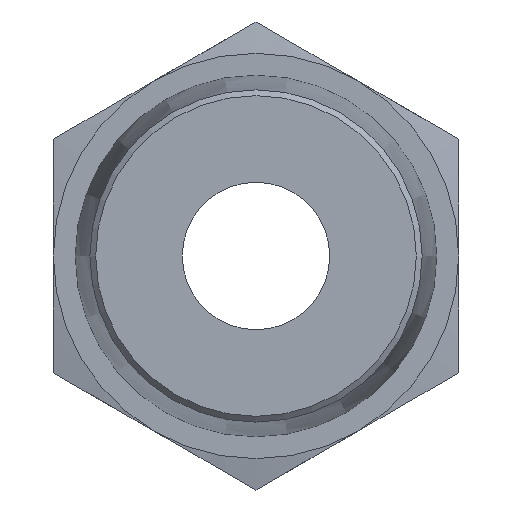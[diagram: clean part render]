
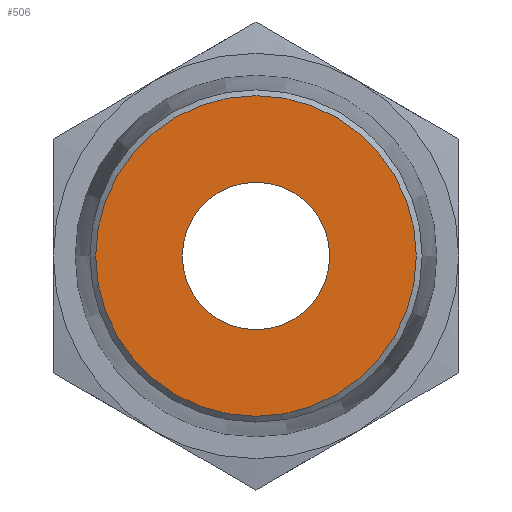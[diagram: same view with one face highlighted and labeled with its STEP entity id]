
A CAD part, front view. The second image highlights one B-rep face of the part: STEP entity #506.
In plain terms, the highlighted planar face has unit normal (0, -1, 0).
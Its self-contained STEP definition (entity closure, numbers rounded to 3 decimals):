
#57=FACE_BOUND('',#124,.T.);
#65=PLANE('',#579);
#84=FACE_OUTER_BOUND('',#123,.T.);
#123=EDGE_LOOP('',(#371));
#124=EDGE_LOOP('',(#372));
#191=CIRCLE('',#560,4.);
#203=CIRCLE('',#578,8.7);
#225=VERTEX_POINT('',#792);
#236=VERTEX_POINT('',#824);
#270=EDGE_CURVE('',#225,#225,#191,.T.);
#286=EDGE_CURVE('',#236,#236,#203,.T.);
#371=ORIENTED_EDGE('',*,*,#286,.F.);
#372=ORIENTED_EDGE('',*,*,#270,.T.);
#506=ADVANCED_FACE('',(#84,#57),#65,.T.);
#560=AXIS2_PLACEMENT_3D('',#793,#634,#635);
#578=AXIS2_PLACEMENT_3D('',#826,#674,#675);
#579=AXIS2_PLACEMENT_3D('',#827,#676,#677);
#634=DIRECTION('center_axis',(0.,1.,0.));
#635=DIRECTION('ref_axis',(1.,0.,0.));
#674=DIRECTION('center_axis',(0.,1.,0.));
#675=DIRECTION('ref_axis',(-1.,0.,0.));
#676=DIRECTION('center_axis',(0.,-1.,0.));
#677=DIRECTION('ref_axis',(0.,0.,-1.));
#792=CARTESIAN_POINT('',(-4.,-13.5,0.));
#793=CARTESIAN_POINT('Origin',(0.,-13.5,0.));
#824=CARTESIAN_POINT('',(8.7,-13.5,0.));
#826=CARTESIAN_POINT('Origin',(0.,-13.5,0.));
#827=CARTESIAN_POINT('Origin',(9.,-13.5,0.));
